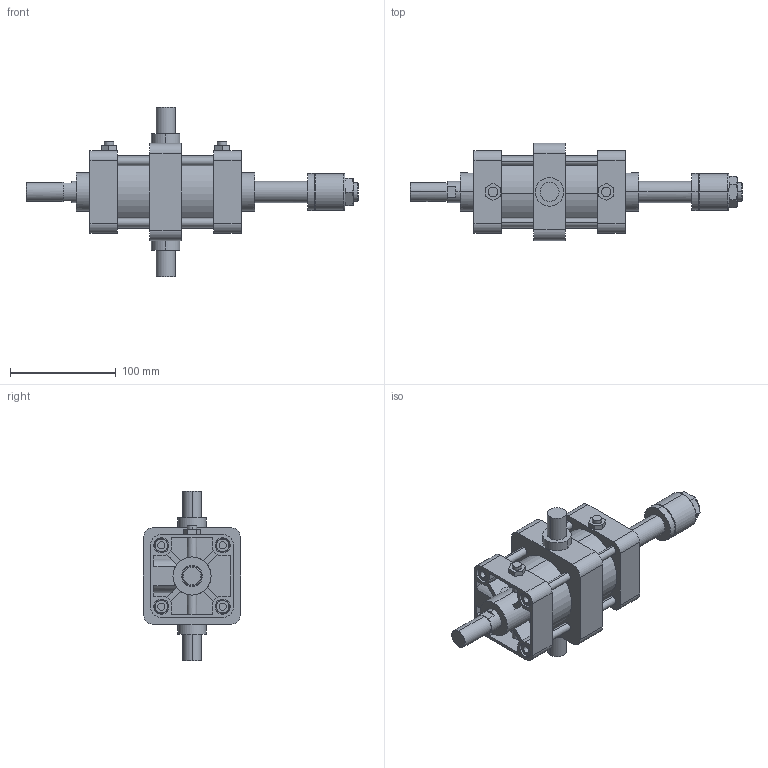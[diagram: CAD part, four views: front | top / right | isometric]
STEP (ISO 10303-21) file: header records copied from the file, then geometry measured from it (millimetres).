
FILE_DESCRIPTION (( 'STEP AP203' ), '1' );
FILE_NAME ('KGA7-63#-50-T.STEP', '2016-04-14T07:52:44', ( '' ), ( '' ), 'SwSTEP 2.0', 'SolidWorks 2014', '' );
FILE_SCHEMA (( 'CONFIG_CONTROL_DESIGN' ));
Length unit declared in the file: millimetre
Products named in the file (9): K#7-63-50-After; KGA7-63#-50-T; K-63-T; KGA7-50(63)-Turn; KGLH2-63-50
Assembly tree (18 placements, depth 2):
  KGA7-63#-50-T
    K#7-63-50-After
    KGLH2-63-50
    (unnamed)
    (unnamed)  x4
    (unnamed)  x8
    K-63-T
    KGA7-50(63)-Turn
    (unnamed)
Bounding box: 314 x 92 x 160 mm (x, y, z)
Volume: 820554.5 mm3; surface area: 168919.8 mm2
Topology: 18 solids, 18 shells, 401 faces, 942 edges, 600 vertices
Faces by surface type: plane 169, cylinder 158, torus 46, cone 28
Entity records: 10708 total; most frequent: CARTESIAN_POINT 1957, DIRECTION 1668, ORIENTED_EDGE 1504, EDGE_CURVE 752, AXIS2_PLACEMENT_3D 640, VERTEX_POINT 490, VECTOR 388, LINE 388
